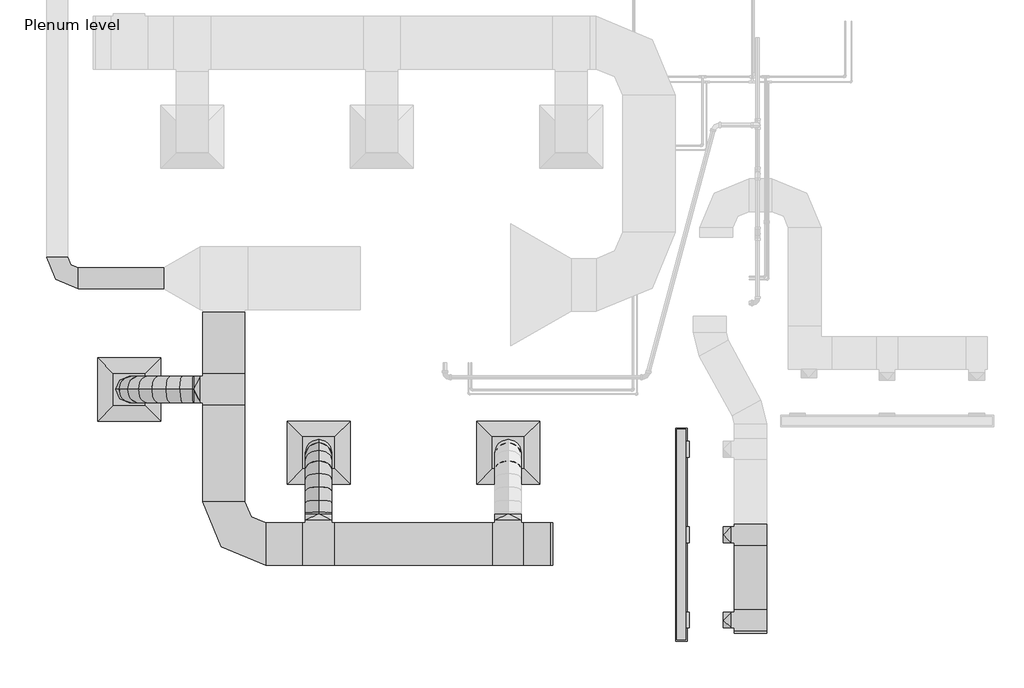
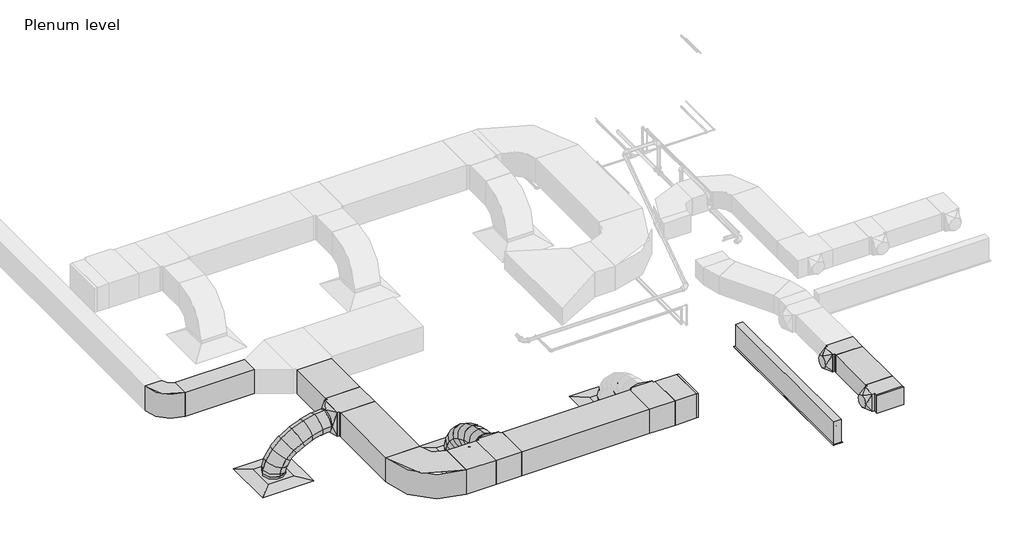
# One storey, part 1 of 5: 14 duct fittings, 9 duct segments, 4 air terminals.
"""IFC4 building model written with IfcOpenShell, lengths in millimetres."""

from ifc_helpers import new_model, si_unit, frame, origin, place, context, project, spatial, polyline, circle_curve, ellipse_curve, outline, extrude, transform, mapped, element, save
from ifc_brep_helpers import plane_surface, cylinder_surface, advanced_brep
from components import m_supply_diffuser_rectangular_face_round_neck_600x600_250_c542da2c, my_slot_dd8c6a98, m_rectangular_elbow_radius_1_w_3d36b4d6, m_rectangular_elbow_radius_1_w_505d9212, m_rectangular_endcap_standard_b158c805, m_rectangular_endcap_standard_0945e9d3, m_rectangular_tee_standard_5b520c83, m_rectangular_tee_standard_0bd60039, m_rectangular_to_round_transition_angle_45_degree_c764813a, m_rectangular_to_round_transition_angle_45_degree_93fd9755

model = new_model("IFC4")

# Units and contexts
model_context = context("Model", 3, world=origin())
ifc_project = project(units=[si_unit("LENGTHUNIT", "METRE", prefix="MILLI")], contexts=[model_context])

# Site, building, storey
site = spatial("IfcSite", under=ifc_project)
building = spatial("IfcBuilding", under=site)
storey = spatial("IfcBuildingStorey", under=building, Name="Plenum level", Elevation=2500.0)

# Air terminals
placement = place(None, origin())
m_supply_diffuser_rectangular_face_round_neck_600x600_250_shape = m_supply_diffuser_rectangular_face_round_neck_600x600_250_c542da2c(model_context)
element("IfcAirTerminal", 1, ObjectType="M_Supply Diffuser - Rectangular Face Round Neck : 600x600 - 250 Neck", at=placement, inside=storey, context=model_context, shape_type="MappedRepresentation", body=[
    mapped(m_supply_diffuser_rectangular_face_round_neck_600x600_250_shape, transform((-16262.9123896, -2855.4324328, 2500.0), x_axis=(1.0, 0.0, 0.0), y_axis=(0.0, 1.0, 0.0), z_axis=(0.0, 0.0, 1.0))),
])
element("IfcAirTerminal", 2, ObjectType="M_Supply Diffuser - Rectangular Face Round Neck : 600x600 - 250 Neck", at=placement, inside=storey, context=model_context, shape_type="MappedRepresentation", body=[
    mapped(m_supply_diffuser_rectangular_face_round_neck_600x600_250_shape, transform((-14462.9123896, -3455.4324328, 2500.0), x_axis=(1.0, 0.0, 0.0), y_axis=(0.0, 1.0, 0.0), z_axis=(0.0, 0.0, 1.0))),
])
element("IfcAirTerminal", 3, ObjectType="M_Supply Diffuser - Rectangular Face Round Neck : 600x600 - 250 Neck", at=placement, inside=storey, context=model_context, shape_type="MappedRepresentation", body=[
    mapped(m_supply_diffuser_rectangular_face_round_neck_600x600_250_shape, transform((-12662.9123896, -3455.4324328, 2500.0), x_axis=(1.0, 0.0, 0.0), y_axis=(0.0, 1.0, 0.0), z_axis=(0.0, 0.0, 1.0))),
])
my_slot_shape = my_slot_dd8c6a98(model_context)
element("IfcAirTerminal", 4, ObjectType="M_Supply Diffuser with Plenum - Linear Slot - Hosted MODIFIED : My slot", at=placement, inside=storey, context=model_context, shape_type="MappedRepresentation", body=[
    mapped(my_slot_shape, transform((-11017.3498896, -4235.4324328, 2500.0), x_axis=(0.0, -1.0, 0.0), y_axis=(-1.0, 0.0, 0.0), z_axis=(0.0, 0.0, -1.0))),
])

# Duct fittings
m_rectangular_elbow_radius_1_w_shape = m_rectangular_elbow_radius_1_w_3d36b4d6(model_context)
element("IfcDuctFitting", 5, ObjectType="M_Rectangular Elbow - Radius : 1 W", at=placement, inside=storey, context=model_context, shape_type="MappedRepresentation", body=[
    mapped(m_rectangular_elbow_radius_1_w_shape, transform((-15362.9185439, -4323.4069652, 2965.8898555), x_axis=(0.0, -0.9999999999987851, 1.5588434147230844e-06), y_axis=(1.0000000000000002, 0.0, 0.0), z_axis=(0.0, 1.5588434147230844e-06, 0.9999999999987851))),
])
m_rectangular_elbow_radius_1_w_2_shape = m_rectangular_elbow_radius_1_w_505d9212(model_context)
element("IfcDuctFitting", 6, ObjectType="M_Rectangular Elbow - Radius : 1 W", at=placement, inside=storey, context=model_context, shape_type="MappedRepresentation", body=[
    mapped(m_rectangular_elbow_radius_1_w_2_shape, transform((-16947.2723444, -1798.4074328, 2965.8591604), x_axis=(0.0, -0.9999999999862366, -5.246621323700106e-06), y_axis=(0.9999999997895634, -1.0763548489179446e-10, 2.0515199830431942e-05), z_axis=(-2.0515199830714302e-05, -5.246621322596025e-06, 0.9999999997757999))),
])
m_rectangular_endcap_standard_shape = m_rectangular_endcap_standard_b158c805(model_context)
element("IfcDuctFitting", 7, ObjectType="M_Rectangular Endcap : Standard", at=placement, inside=storey, context=model_context, shape_type="MappedRepresentation", body=[
    mapped(m_rectangular_endcap_standard_shape, transform((-10360.4971529, -5145.9332981, 2765.8943957), x_axis=(0.0, -0.9999999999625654, -8.652706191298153e-06), y_axis=(1.0, 0.0, 0.0), z_axis=(0.0, -8.652706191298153e-06, 0.9999999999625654))),
])
m_rectangular_endcap_standard_2_shape = m_rectangular_endcap_standard_0945e9d3(model_context)
element("IfcDuctFitting", 8, ObjectType="M_Rectangular Endcap : Standard", at=placement, inside=storey, context=model_context, shape_type="MappedRepresentation", body=[
    mapped(m_rectangular_endcap_standard_2_shape, transform((-12262.9123896, -4323.4069652, 2965.8898555), x_axis=(1.0, 0.0, 0.0), y_axis=(0.0, 1.0, 0.0), z_axis=(0.0, 0.0, 1.0))),
])
m_rectangular_tee_standard_shape = m_rectangular_tee_standard_5b520c83(model_context)
element("IfcDuctFitting", 9, ObjectType="M_Rectangular Tee : Standard", at=placement, inside=storey, context=model_context, shape_type="MappedRepresentation", body=[
    mapped(m_rectangular_tee_standard_shape, transform((-10360.4971529, -4235.4332981, 2765.902274), x_axis=(0.0, -0.9999999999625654, -8.652706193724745e-06), y_axis=(1.0, 0.0, 0.0), z_axis=(0.0, -8.652706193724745e-06, 0.9999999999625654))),
])
element("IfcDuctFitting", 10, ObjectType="M_Rectangular Tee : Standard", at=placement, inside=storey, context=model_context, shape_type="MappedRepresentation", body=[
    mapped(m_rectangular_tee_standard_shape, transform((-10360.4971529, -5045.9332981, 2765.895261), x_axis=(0.0, -0.9999999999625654, -8.652706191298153e-06), y_axis=(1.0, 0.0, 0.0), z_axis=(0.0, -8.652706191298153e-06, 0.9999999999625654))),
])
m_rectangular_tee_standard_2_shape = m_rectangular_tee_standard_0bd60039(model_context)
element("IfcDuctFitting", 11, ObjectType="M_Rectangular Tee : Standard", at=placement, inside=storey, context=model_context, shape_type="MappedRepresentation", body=[
    mapped(m_rectangular_tee_standard_2_shape, transform((-15362.9185439, -2855.4324328, 2965.8875672), x_axis=(0.0, -0.9999999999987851, 1.5588434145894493e-06), y_axis=(1.0000000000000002, 0.0, 0.0), z_axis=(0.0, 1.5588434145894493e-06, 0.9999999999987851))),
])
element("IfcDuctFitting", 12, ObjectType="M_Rectangular Tee : Standard", at=placement, inside=storey, context=model_context, shape_type="MappedRepresentation", body=[
    mapped(m_rectangular_tee_standard_2_shape, transform((-14462.9123896, -4323.4069652, 2965.8898555), x_axis=(-1.0, 0.0, 0.0), y_axis=(0.0, -1.0, 0.0), z_axis=(0.0, 0.0, 1.0))),
])
element("IfcDuctFitting", 13, ObjectType="M_Rectangular Tee : Standard", at=placement, inside=storey, context=model_context, shape_type="MappedRepresentation", body=[
    mapped(m_rectangular_tee_standard_2_shape, transform((-12662.9123896, -4323.4069652, 2965.8898555), x_axis=(-1.0, 0.0, 0.0), y_axis=(0.0, -1.0, 0.0), z_axis=(0.0, 0.0, 1.0))),
])
m_rectangular_to_round_transition_angle_45_degree_shape = m_rectangular_to_round_transition_angle_45_degree_c764813a(model_context)
element("IfcDuctFitting", 14, ObjectType="M_Rectangular to Round Transition - Angle : 45 Degree", at=placement, inside=storey, context=model_context, shape_type="MappedRepresentation", body=[
    mapped(m_rectangular_to_round_transition_angle_45_degree_shape, transform((-10541.4346529, -4235.4332981, 2765.902274), x_axis=(-1.0, 0.0, 0.0), y_axis=(0.0, -0.9999999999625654, -8.6527061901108e-06), z_axis=(0.0, -8.6527061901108e-06, 0.9999999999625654))),
])
element("IfcDuctFitting", 15, ObjectType="M_Rectangular to Round Transition - Angle : 45 Degree", at=placement, inside=storey, context=model_context, shape_type="MappedRepresentation", body=[
    mapped(m_rectangular_to_round_transition_angle_45_degree_shape, transform((-10541.4343944, -5045.9305787, 2765.9), x_axis=(-1.0, 0.0, 0.0), y_axis=(0.0, -0.9999999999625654, -8.6527061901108e-06), z_axis=(0.0, -8.6527061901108e-06, 0.9999999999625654))),
])
m_rectangular_to_round_transition_angle_45_degree_2_shape = m_rectangular_to_round_transition_angle_45_degree_93fd9755(model_context)
element("IfcDuctFitting", 16, ObjectType="M_Rectangular to Round Transition - Angle : 45 Degree", at=placement, inside=storey, context=model_context, shape_type="MappedRepresentation", body=[
    mapped(m_rectangular_to_round_transition_angle_45_degree_2_shape, transform((-15587.9185439, -2855.4324328, 2965.8875672), x_axis=(-1.0, 0.0, 0.0), y_axis=(0.0, -0.9999999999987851, 1.5588434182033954e-06), z_axis=(0.0, 1.5588434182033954e-06, 0.9999999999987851))),
])
element("IfcDuctFitting", 17, ObjectType="M_Rectangular to Round Transition - Angle : 45 Degree", at=placement, inside=storey, context=model_context, shape_type="MappedRepresentation", body=[
    mapped(m_rectangular_to_round_transition_angle_45_degree_2_shape, transform((-14462.9123896, -4098.4069652, 2965.8898555), x_axis=(0.0, 1.0, 0.0), y_axis=(-1.0, 0.0, 0.0), z_axis=(0.0, 0.0, 1.0))),
])
element("IfcDuctFitting", 18, ObjectType="M_Rectangular to Round Transition - Angle : 45 Degree", at=placement, inside=storey, context=model_context, shape_type="MappedRepresentation", body=[
    mapped(m_rectangular_to_round_transition_angle_45_degree_2_shape, transform((-12662.9123896, -4098.4069652, 2965.8898555), x_axis=(0.0, 1.0, 0.0), y_axis=(-1.0, 0.0, 0.0), z_axis=(0.0, 0.0, 1.0))),
])

# Duct segments
element("IfcDuctSegment", 19, ObjectType="Default", at=placement, inside=storey, context=model_context, shape_type="SweptSolid", body=[
    extrude(outline(polyline([(0.0, -311.875), (0.0, 0.0), (610.5000001, 0.0), (610.5000001, -311.875), (0.0, -311.875)])), frame((-10204.5596529, -4335.432371, 2658.7639087), z_axis=(0.0, -8.652706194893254e-06, 0.9999999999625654), x_axis=(0.0, -0.9999999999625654, -8.652706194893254e-06)), (0.0, 0.0, 1.0), 214.275),
])
element("IfcDuctSegment", 20, ObjectType="Default", at=placement, inside=storey, context=model_context, shape_type="SweptSolid", body=[
    extrude(outline(polyline([(0.0, -200.0), (0.0, 0.0), (812.9436392, 0.0), (812.9436392, -200.0), (0.0, -200.0)])), frame((-15934.3266879, -1898.4074328, 2815.8741969), z_axis=(-1.3449204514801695e-05, 0.0, 0.9999999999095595), x_axis=(-0.9999999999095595, -5.785981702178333e-11, -1.3449204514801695e-05)), (0.0, 0.0, 1.0), 300.0),
])
element("IfcDuctSegment", 21, ObjectType="Default", at=placement, inside=storey, context=model_context, shape_type="SweptSolid", body=[
    extrude(outline(polyline([(-15562.9185439, -3005.4324328), (-15162.9185439, -3005.4324328), (-15162.9185439, -3923.4069652), (-15562.9185439, -3923.4069652), (-15562.9185439, -3005.4324328)])), frame((0.0, 0.0, 2815.887801), z_axis=(0.0, 0.0, 1.0), x_axis=(1.0, 0.0, 0.0)), (0.0, 0.0, 1.0), 300.0),
])
element("IfcDuctSegment", 22, ObjectType="Default", at=placement, inside=storey, context=model_context, shape_type="SweptSolid", body=[
    extrude(outline(polyline([(-12512.9123896, -4523.4069652), (-12512.9123896, -4123.4069652), (-12262.9123896, -4123.4069652), (-12262.9123896, -4523.4069652), (-12512.9123896, -4523.4069652)])), frame((0.0, 0.0, 2815.8898555), z_axis=(0.0, 0.0, 1.0), x_axis=(1.0, 0.0, 0.0)), (0.0, 0.0, 1.0), 300.0),
])
element("IfcDuctSegment", 23, ObjectType="Default", at=placement, inside=storey, context=model_context, shape_type="SweptSolid", body=[
    extrude(outline(polyline([(-15562.9185439, -2123.4074328), (-15162.9185439, -2123.4074328), (-15162.9185439, -2705.4324328), (-15562.9185439, -2705.4324328), (-15562.9185439, -2123.4074328)])), frame((0.0, 0.0, 2815.8864261), z_axis=(0.0, 0.0, 1.0), x_axis=(1.0, 0.0, 0.0)), (0.0, 0.0, 1.0), 300.0),
])
element("IfcDuctSegment", 24, ObjectType="Default", at=placement, inside=storey, context=model_context, shape_type="SweptSolid", body=[
    extrude(outline(polyline([(-14962.9185439, -4523.4069652), (-14962.9185439, -4123.4069652), (-14612.9123896, -4123.4069652), (-14612.9123896, -4523.4069652), (-14962.9185439, -4523.4069652)])), frame((0.0, 0.0, 2815.8898555), z_axis=(0.0, 0.0, 1.0), x_axis=(1.0, 0.0, 0.0)), (0.0, 0.0, 1.0), 300.0),
])
element("IfcDuctSegment", 25, ObjectType="Default", at=placement, inside=storey, context=model_context, shape_type="SweptSolid", body=[
    extrude(outline(polyline([(-14312.9123896, -4523.4069652), (-14312.9123896, -4123.4069652), (-12812.9123896, -4123.4069652), (-12812.9123896, -4523.4069652), (-14312.9123896, -4523.4069652)])), frame((0.0, 0.0, 2815.8898555), z_axis=(0.0, 0.0, 1.0), x_axis=(1.0, 0.0, 0.0)), (0.0, 0.0, 1.0), 300.0),
])
element("IfcDuctSegment", 26, ObjectType="Flex - Round", at=placement, inside=storey, context=model_context, shape_type="AdvancedBrep", body=[
    advanced_brep(
    [(-16137.9123896, -2855.4324328, 2553.975), (-16262.9123896, -2980.4324328, 2553.975), (-16387.9123896, -2855.4324328, 2553.975), (-16262.9123896, -2730.4324328, 2553.975), (-16137.9123896, -2855.4324328, 2562.3691709), (-16262.9123896, -2980.4324328, 2579.6699319), (-16387.9123896, -2855.4324328, 2596.970693), (-16262.9123896, -2730.4324328, 2579.6699319), (-16126.6236869, -2855.4324328, 2602.3690497), (-16241.8082211, -2980.4324328, 2654.4494888), (-16356.9927552, -2855.4324328, 2706.5299279), (-16241.8082211, -2730.4324328, 2654.4494888), (-16088.4464942, -2855.4324328, 2661.3820954), (-16184.2027324, -2980.4324328, 2743.4941535), (-16279.9589707, -2855.4324328, 2825.6062117), (-16184.2027324, -2730.4324328, 2743.4941535), (-16024.6878659, -2855.4324328, 2718.1351568), (-16098.6564493, -2980.4324328, 2819.6409215), (-16172.6250327, -2855.4324328, 2921.1466861), (-16098.6564493, -2730.4324328, 2819.6409215), (-15938.6317519, -2855.4324328, 2768.8050331), (-15993.7298972, -2980.4324328, 2881.4217197), (-16048.8280426, -2855.4324328, 2994.0384062), (-15993.7298972, -2730.4324328, 2881.4217197), (-15839.9956757, -2855.4324328, 2807.9597004), (-15877.9836018, -2980.4324328, 2927.3684752), (-15915.9715279, -2855.4324328, 3046.7772501), (-15877.9836018, -2730.4324328, 2927.3684752), (-15739.032415, -2855.4324328, 2832.4675068), (-15759.9780885, -2980.4324328, 2956.0131154), (-15780.923762, -2855.4324328, 3079.558724), (-15759.9780885, -2730.4324328, 2956.0131154), (-15653.1666076, -2855.4324328, 2840.8875672), (-15659.2807378, -2980.4324328, 2965.8875672), (-15665.3948679, -2855.4324328, 3090.8875672), (-15659.2807378, -2730.4324328, 2965.8875672), (-15648.273883, -2855.4324328, 2840.8875672), (-15648.273883, -2980.4324328, 2965.8875672), (-15648.273883, -2855.4324328, 3090.8875672), (-15648.273883, -2730.4324328, 2965.8875672)],
    [
        (0, 1, circle_curve(frame((-16262.9123896, -2855.4324328, 2553.975), z_axis=(0.0, 0.0, -1.0), x_axis=(1.0, 0.0, 0.0)), 125.0)),
        (1, 2, circle_curve(frame((-16262.9123896, -2855.4324328, 2553.975), z_axis=(0.0, 0.0, -1.0), x_axis=(1.0, 0.0, 0.0)), 125.0)),
        (2, 3, circle_curve(frame((-16262.9123896, -2855.4324328, 2553.975), z_axis=(0.0, 0.0, -1.0), x_axis=(1.0, 0.0, 0.0)), 125.0)),
        (3, 0, circle_curve(frame((-16262.9123896, -2855.4324328, 2553.975), z_axis=(0.0, 0.0, -1.0), x_axis=(1.0, 0.0, 0.0)), 125.0)),
        (0, 4),
        (4, 5, ellipse_curve(frame((-16262.9123896, -2855.4324328, 2579.6699319), z_axis=(-0.13709916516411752, 0.0, -0.9905573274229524), x_axis=(0.9905573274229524, 0.0, -0.1370991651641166)), 126.1915858, 125.0)),
        (5, 1),
        (5, 6, ellipse_curve(frame((-16262.9123896, -2855.4324328, 2579.6699319), z_axis=(-0.13709916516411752, 0.0, -0.9905573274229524), x_axis=(0.9905573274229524, 0.0, -0.1370991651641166)), 126.1915858, 125.0)),
        (6, 2),
        (6, 7, ellipse_curve(frame((-16262.9123896, -2855.4324328, 2579.6699319), z_axis=(-0.13709916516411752, 0.0, -0.9905573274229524), x_axis=(0.9905573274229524, 0.0, -0.1370991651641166)), 126.1915858, 125.0)),
        (7, 3),
        (7, 4, ellipse_curve(frame((-16262.9123896, -2855.4324328, 2579.6699319), z_axis=(-0.13709916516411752, 0.0, -0.9905573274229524), x_axis=(0.9905573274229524, 0.0, -0.1370991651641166)), 126.1915858, 125.0)),
        (4, 8),
        (8, 9, ellipse_curve(frame((-16241.8082211, -2855.4324328, 2654.4494888), z_axis=(-0.41199154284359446, 0.0, -0.9111876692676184), x_axis=(0.9111876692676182, 0.0, -0.4119915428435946)), 126.4114277, 125.0)),
        (9, 5),
        (9, 10, ellipse_curve(frame((-16241.8082211, -2855.4324328, 2654.4494888), z_axis=(-0.41199154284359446, 0.0, -0.9111876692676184), x_axis=(0.9111876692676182, 0.0, -0.4119915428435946)), 126.4114277, 125.0)),
        (10, 6),
        (10, 11, ellipse_curve(frame((-16241.8082211, -2855.4324328, 2654.4494888), z_axis=(-0.41199154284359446, 0.0, -0.9111876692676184), x_axis=(0.9111876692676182, 0.0, -0.4119915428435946)), 126.4114277, 125.0)),
        (11, 7),
        (11, 8, ellipse_curve(frame((-16241.8082211, -2855.4324328, 2654.4494888), z_axis=(-0.41199154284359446, 0.0, -0.9111876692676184), x_axis=(0.9111876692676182, 0.0, -0.4119915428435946)), 126.4114277, 125.0)),
        (8, 12),
        (12, 13, ellipse_curve(frame((-16184.2027324, -2855.4324328, 2743.4941535), z_axis=(-0.6509526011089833, 0.0, -0.759118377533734), x_axis=(0.7591183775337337, 0.0, -0.650952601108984)), 126.1413781, 125.0)),
        (13, 9),
        (13, 14, ellipse_curve(frame((-16184.2027324, -2855.4324328, 2743.4941535), z_axis=(-0.6509526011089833, 0.0, -0.759118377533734), x_axis=(0.7591183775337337, 0.0, -0.650952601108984)), 126.1413781, 125.0)),
        (14, 10),
        (14, 15, ellipse_curve(frame((-16184.2027324, -2855.4324328, 2743.4941535), z_axis=(-0.6509526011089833, 0.0, -0.759118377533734), x_axis=(0.7591183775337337, 0.0, -0.650952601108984)), 126.1413781, 125.0)),
        (15, 11),
        (15, 12, ellipse_curve(frame((-16184.2027324, -2855.4324328, 2743.4941535), z_axis=(-0.6509526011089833, 0.0, -0.759118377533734), x_axis=(0.7591183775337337, 0.0, -0.650952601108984)), 126.1413781, 125.0)),
        (12, 16),
        (16, 17, ellipse_curve(frame((-16098.6564493, -2855.4324328, 2819.6409215), z_axis=(-0.8081819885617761, 0.0, -0.588932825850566), x_axis=(0.5889328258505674, 0.0, -0.8081819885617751)), 125.5976575, 125.0)),
        (17, 13),
        (17, 18, ellipse_curve(frame((-16098.6564493, -2855.4324328, 2819.6409215), z_axis=(-0.8081819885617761, 0.0, -0.588932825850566), x_axis=(0.5889328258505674, 0.0, -0.8081819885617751)), 125.5976575, 125.0)),
        (18, 14),
        (18, 19, ellipse_curve(frame((-16098.6564493, -2855.4324328, 2819.6409215), z_axis=(-0.8081819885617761, 0.0, -0.588932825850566), x_axis=(0.5889328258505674, 0.0, -0.8081819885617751)), 125.5976575, 125.0)),
        (19, 15),
        (19, 16, ellipse_curve(frame((-16098.6564493, -2855.4324328, 2819.6409215), z_axis=(-0.8081819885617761, 0.0, -0.588932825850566), x_axis=(0.5889328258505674, 0.0, -0.8081819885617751)), 125.5976575, 125.0)),
        (16, 20),
        (20, 21, ellipse_curve(frame((-15993.7298972, -2855.4324328, 2881.4217197), z_axis=(-0.8982549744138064, 0.0, -0.4394746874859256), x_axis=(0.4394746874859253, 0.0, -0.8982549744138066)), 125.3727391, 125.0)),
        (21, 17),
        (21, 22, ellipse_curve(frame((-15993.7298972, -2855.4324328, 2881.4217197), z_axis=(-0.8982549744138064, 0.0, -0.4394746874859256), x_axis=(0.4394746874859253, 0.0, -0.8982549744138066)), 125.3727391, 125.0)),
        (22, 18),
        (22, 23, ellipse_curve(frame((-15993.7298972, -2855.4324328, 2881.4217197), z_axis=(-0.8982549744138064, 0.0, -0.4394746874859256), x_axis=(0.4394746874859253, 0.0, -0.8982549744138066)), 125.3727391, 125.0)),
        (23, 19),
        (23, 20, ellipse_curve(frame((-15993.7298972, -2855.4324328, 2881.4217197), z_axis=(-0.8982549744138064, 0.0, -0.4394746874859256), x_axis=(0.4394746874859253, 0.0, -0.8982549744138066)), 125.3727391, 125.0)),
        (20, 24),
        (24, 25, ellipse_curve(frame((-15877.9836018, -2855.4324328, 2927.3684752), z_axis=(-0.9529390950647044, 0.0, -0.30316180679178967), x_axis=(0.3031618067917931, 0.0, -0.952939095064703)), 125.3057781, 125.0)),
        (25, 21),
        (25, 26, ellipse_curve(frame((-15877.9836018, -2855.4324328, 2927.3684752), z_axis=(-0.9529390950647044, 0.0, -0.30316180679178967), x_axis=(0.3031618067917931, 0.0, -0.952939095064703)), 125.3057781, 125.0)),
        (26, 22),
        (26, 27, ellipse_curve(frame((-15877.9836018, -2855.4324328, 2927.3684752), z_axis=(-0.9529390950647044, 0.0, -0.30316180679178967), x_axis=(0.3031618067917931, 0.0, -0.952939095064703)), 125.3057781, 125.0)),
        (27, 23),
        (27, 24, ellipse_curve(frame((-15877.9836018, -2855.4324328, 2927.3684752), z_axis=(-0.9529390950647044, 0.0, -0.30316180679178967), x_axis=(0.3031618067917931, 0.0, -0.952939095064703)), 125.3057781, 125.0)),
        (24, 28),
        (28, 29, ellipse_curve(frame((-15759.9780885, -2855.4324328, 2956.0131154), z_axis=(-0.985931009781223, 0.0, -0.16715275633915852), x_axis=(0.16715275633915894, 0.0, -0.9859310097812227)), 125.3085737, 125.0)),
        (29, 25),
        (29, 30, ellipse_curve(frame((-15759.9780885, -2855.4324328, 2956.0131154), z_axis=(-0.985931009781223, 0.0, -0.16715275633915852), x_axis=(0.16715275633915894, 0.0, -0.9859310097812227)), 125.3085737, 125.0)),
        (30, 26),
        (30, 31, ellipse_curve(frame((-15759.9780885, -2855.4324328, 2956.0131154), z_axis=(-0.985931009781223, 0.0, -0.16715275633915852), x_axis=(0.16715275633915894, 0.0, -0.9859310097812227)), 125.3085737, 125.0)),
        (31, 27),
        (31, 28, ellipse_curve(frame((-15759.9780885, -2855.4324328, 2956.0131154), z_axis=(-0.985931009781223, 0.0, -0.16715275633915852), x_axis=(0.16715275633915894, 0.0, -0.9859310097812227)), 125.3085737, 125.0)),
        (28, 32),
        (32, 33, ellipse_curve(frame((-15659.2807378, -2855.4324328, 2965.8875672), z_axis=(-0.9988058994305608, 0.0, -0.04885463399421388), x_axis=(0.04885463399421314, 0.0, -0.9988058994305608)), 125.149441, 125.0)),
        (33, 29),
        (33, 34, ellipse_curve(frame((-15659.2807378, -2855.4324328, 2965.8875672), z_axis=(-0.9988058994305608, 0.0, -0.04885463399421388), x_axis=(0.04885463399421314, 0.0, -0.9988058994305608)), 125.149441, 125.0)),
        (34, 30),
        (34, 35, ellipse_curve(frame((-15659.2807378, -2855.4324328, 2965.8875672), z_axis=(-0.9988058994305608, 0.0, -0.04885463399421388), x_axis=(0.04885463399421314, 0.0, -0.9988058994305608)), 125.149441, 125.0)),
        (35, 31),
        (35, 32, ellipse_curve(frame((-15659.2807378, -2855.4324328, 2965.8875672), z_axis=(-0.9988058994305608, 0.0, -0.04885463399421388), x_axis=(0.04885463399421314, 0.0, -0.9988058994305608)), 125.149441, 125.0)),
        (32, 36),
        (36, 37, circle_curve(frame((-15648.273883, -2855.4324328, 2965.8875672), z_axis=(-1.0, 0.0, 0.0), x_axis=(0.0, 0.0, -1.0)), 125.0)),
        (37, 33),
        (37, 38, circle_curve(frame((-15648.273883, -2855.4324328, 2965.8875672), z_axis=(-1.0, 0.0, 0.0), x_axis=(0.0, 0.0, -1.0)), 125.0)),
        (38, 34),
        (38, 39, circle_curve(frame((-15648.273883, -2855.4324328, 2965.8875672), z_axis=(-1.0, 0.0, 0.0), x_axis=(0.0, 0.0, -1.0)), 125.0)),
        (39, 35),
        (39, 36, circle_curve(frame((-15648.273883, -2855.4324328, 2965.8875672), z_axis=(-1.0, 0.0, 0.0), x_axis=(0.0, 0.0, -1.0)), 125.0)),
    ],
    [
        plane_surface(frame((-16262.9123896, -2980.4324328, 2553.975), z_axis=(0.0, 0.0, -1.0), x_axis=(1.0, 0.0, 0.0))),
        cylinder_surface(frame((-16262.9123896, -2855.4324328, 2553.975), z_axis=(0.0, 0.0, -1.0), x_axis=(1.0, 0.0, 0.0)), 125.0),
        cylinder_surface(frame((-16262.9123896, -2855.4324328, 2579.6699319), z_axis=(-0.2716091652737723, 0.0, -0.9624076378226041), x_axis=(0.9624076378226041, 0.0, -0.2716091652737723)), 125.0),
        cylinder_surface(frame((-16241.8082211, -2855.4324328, 2654.4494888), z_axis=(-0.5431738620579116, 0.0, -0.8396202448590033), x_axis=(0.8396202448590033, 0.0, -0.5431738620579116)), 125.0),
        cylinder_surface(frame((-16184.2027324, -2855.4324328, 2743.4941535), z_axis=(-0.7469511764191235, 0.0, -0.6648788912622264), x_axis=(0.6648788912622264, 0.0, -0.7469511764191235)), 125.0),
        cylinder_surface(frame((-16098.6564493, -2855.4324328, 2819.6409215), z_axis=(-0.8617213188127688, 0.0, -0.5073818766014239), x_axis=(0.5073818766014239, 0.0, -0.8617213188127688)), 125.0),
        cylinder_surface(frame((-15993.7298972, -2855.4324328, 2881.4217197), z_axis=(-0.9294475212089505, 0.0, -0.3689543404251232), x_axis=(0.3689543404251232, 0.0, -0.9294475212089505)), 125.0),
        cylinder_surface(frame((-15877.9836018, -2855.4324328, 2927.3684752), z_axis=(-0.9717798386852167, 0.0, -0.2358896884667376), x_axis=(0.2358896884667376, 0.0, -0.9717798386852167)), 125.0),
        cylinder_surface(frame((-15759.9780885, -2855.4324328, 2956.0131154), z_axis=(-0.9952264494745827, 0.0, -0.09759259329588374), x_axis=(0.09759259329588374, 0.0, -0.9952264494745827)), 125.0),
        cylinder_surface(frame((-15659.2807378, -2855.4324328, 2965.8875672), z_axis=(-1.0, 0.0, 0.0), x_axis=(0.0, 0.0, -1.0)), 125.0),
        plane_surface(frame((-15648.273883, -2855.4324328, 2840.8875672), z_axis=(1.0, 0.0, 0.0), x_axis=(0.0, 1.0, 0.0))),
    ],
    [
        (0, [[1, 2, 3, 4]]),
        (1, [[-1, 5, 6, 7]]),
        (1, [[-2, -7, 8, 9]]),
        (1, [[-3, -9, 10, 11]]),
        (1, [[-4, -11, 12, -5]]),
        (2, [[-6, 13, 14, 15]]),
        (2, [[-8, -15, 16, 17]]),
        (2, [[-10, -17, 18, 19]]),
        (2, [[-12, -19, 20, -13]]),
        (3, [[-14, 21, 22, 23]]),
        (3, [[-16, -23, 24, 25]]),
        (3, [[-18, -25, 26, 27]]),
        (3, [[-20, -27, 28, -21]]),
        (4, [[-22, 29, 30, 31]]),
        (4, [[-24, -31, 32, 33]]),
        (4, [[-26, -33, 34, 35]]),
        (4, [[-28, -35, 36, -29]]),
        (5, [[-30, 37, 38, 39]]),
        (5, [[-32, -39, 40, 41]]),
        (5, [[-34, -41, 42, 43]]),
        (5, [[-36, -43, 44, -37]]),
        (6, [[-38, 45, 46, 47]]),
        (6, [[-40, -47, 48, 49]]),
        (6, [[-42, -49, 50, 51]]),
        (6, [[-44, -51, 52, -45]]),
        (7, [[-46, 53, 54, 55]]),
        (7, [[-48, -55, 56, 57]]),
        (7, [[-50, -57, 58, 59]]),
        (7, [[-52, -59, 60, -53]]),
        (8, [[-54, 61, 62, 63]]),
        (8, [[-56, -63, 64, 65]]),
        (8, [[-58, -65, 66, 67]]),
        (8, [[-60, -67, 68, -61]]),
        (9, [[-62, 69, 70, 71]]),
        (9, [[-64, -71, 72, 73]]),
        (9, [[-66, -73, 74, 75]]),
        (9, [[-68, -75, 76, -69]]),
        (10, [[-76, -74, -72, -70]]),
    ],
),
])
element("IfcDuctSegment", 27, ObjectType="Flex - Round", at=placement, inside=storey, context=model_context, shape_type="AdvancedBrep", body=[
    advanced_brep(
    [(-14337.9123896, -3455.4324328, 2553.975), (-14462.9123896, -3580.4324328, 2553.975), (-14587.9123896, -3455.4324328, 2553.975), (-14462.9123896, -3330.4324328, 2553.975), (-14337.9123896, -3455.4324328, 2578.7915529), (-14462.9123896, -3580.4324328, 2562.1226451), (-14587.9123896, -3455.4324328, 2578.7915529), (-14462.9123896, -3330.4324328, 2595.4604606), (-14337.9123896, -3475.2242995, 2651.6814393), (-14462.9123896, -3591.1351624, 2601.5388739), (-14587.9123896, -3475.2242995, 2651.6814393), (-14462.9123896, -3359.3134366, 2701.8240046), (-14337.9123896, -3529.3321135, 2739.649918), (-14462.9123896, -3627.2129002, 2660.1940566), (-14587.9123896, -3529.3321135, 2739.649918), (-14462.9123896, -3431.4513267, 2819.1057794), (-14337.9123896, -3609.8541957, 2815.9509204), (-14462.9123896, -3687.001148, 2716.848121), (-14587.9123896, -3609.8541957, 2815.9509204), (-14462.9123896, -3532.7072434, 2915.0537198), (-14337.9123896, -3708.8888672, 2878.6549311), (-14462.9123896, -3767.3901018, 2767.7465563), (-14587.9123896, -3708.8888672, 2878.6549311), (-14462.9123896, -3650.3876325, 2989.5633058), (-14337.9123896, -3818.5344488, 2925.8324342), (-14462.9123896, -3859.4431438, 2807.3544695), (-14587.9123896, -3818.5344488, 2925.8324342), (-14462.9123896, -3777.6257537, 3044.3103989), (-14337.9123896, -3930.8892614, 2955.5539143), (-14462.9123896, -3953.7505347, 2832.3018231), (-14587.9123896, -3930.8892614, 2955.5539143), (-14462.9123896, -3908.0279882, 3078.8060054), (-14337.9123896, -4026.0509142, 2965.8898555), (-14462.9123896, -4032.8194206, 2840.8898555), (-14587.9123896, -4026.0509142, 2965.8898555), (-14462.9123896, -4019.2824077, 3090.8898555), (-14337.9123896, -4038.0516261, 2965.8898555), (-14462.9123896, -4038.0516261, 2840.8898555), (-14587.9123896, -4038.0516261, 2965.8898555), (-14462.9123896, -4038.0516261, 3090.8898555)],
    [
        (0, 1, circle_curve(frame((-14462.9123896, -3455.4324328, 2553.975), z_axis=(0.0, 0.0, -1.0), x_axis=(1.0, 0.0, 0.0)), 125.0)),
        (1, 2, circle_curve(frame((-14462.9123896, -3455.4324328, 2553.975), z_axis=(0.0, 0.0, -1.0), x_axis=(1.0, 0.0, 0.0)), 125.0)),
        (2, 3, circle_curve(frame((-14462.9123896, -3455.4324328, 2553.975), z_axis=(0.0, 0.0, -1.0), x_axis=(1.0, 0.0, 0.0)), 125.0)),
        (3, 0, circle_curve(frame((-14462.9123896, -3455.4324328, 2553.975), z_axis=(0.0, 0.0, -1.0), x_axis=(1.0, 0.0, 0.0)), 125.0)),
        (0, 4),
        (4, 5, ellipse_curve(frame((-14462.9123896, -3455.4324328, 2578.7915529), z_axis=(0.0, 0.1321811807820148, -0.9912255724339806), x_axis=(0.0, -0.9912255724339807, -0.13218118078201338)), 126.1065125, 125.0)),
        (5, 1),
        (5, 6, ellipse_curve(frame((-14462.9123896, -3455.4324328, 2578.7915529), z_axis=(0.0, 0.1321811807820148, -0.9912255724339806), x_axis=(0.0, -0.9912255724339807, -0.13218118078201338)), 126.1065125, 125.0)),
        (6, 2),
        (6, 7, ellipse_curve(frame((-14462.9123896, -3455.4324328, 2578.7915529), z_axis=(0.0, 0.1321811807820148, -0.9912255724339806), x_axis=(0.0, -0.9912255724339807, -0.13218118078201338)), 126.1065125, 125.0)),
        (7, 3),
        (7, 4, ellipse_curve(frame((-14462.9123896, -3455.4324328, 2578.7915529), z_axis=(0.0, 0.1321811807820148, -0.9912255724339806), x_axis=(0.0, -0.9912255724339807, -0.13218118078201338)), 126.1065125, 125.0)),
        (4, 8),
        (8, 9, ellipse_curve(frame((-14462.9123896, -3475.2242995, 2651.6814393), z_axis=(0.0, 0.3970375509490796, -0.9178023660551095), x_axis=(0.0, -0.9178023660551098, -0.3970375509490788)), 126.2917456, 125.0)),
        (9, 5),
        (9, 10, ellipse_curve(frame((-14462.9123896, -3475.2242995, 2651.6814393), z_axis=(0.0, 0.3970375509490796, -0.9178023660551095), x_axis=(0.0, -0.9178023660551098, -0.3970375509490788)), 126.2917456, 125.0)),
        (10, 6),
        (10, 11, ellipse_curve(frame((-14462.9123896, -3475.2242995, 2651.6814393), z_axis=(0.0, 0.3970375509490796, -0.9178023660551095), x_axis=(0.0, -0.9178023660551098, -0.3970375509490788)), 126.2917456, 125.0)),
        (11, 7),
        (11, 8, ellipse_curve(frame((-14462.9123896, -3475.2242995, 2651.6814393), z_axis=(0.0, 0.3970375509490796, -0.9178023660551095), x_axis=(0.0, -0.9178023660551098, -0.3970375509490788)), 126.2917456, 125.0)),
        (8, 12),
        (12, 13, ellipse_curve(frame((-14462.9123896, -3529.3321135, 2739.649918), z_axis=(0.0, 0.6302472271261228, -0.7763945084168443), x_axis=(0.0, -0.7763945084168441, -0.630247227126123)), 126.0709417, 125.0)),
        (13, 9),
        (13, 14, ellipse_curve(frame((-14462.9123896, -3529.3321135, 2739.649918), z_axis=(0.0, 0.6302472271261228, -0.7763945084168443), x_axis=(0.0, -0.7763945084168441, -0.630247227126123)), 126.0709417, 125.0)),
        (14, 10),
        (14, 15, ellipse_curve(frame((-14462.9123896, -3529.3321135, 2739.649918), z_axis=(0.0, 0.6302472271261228, -0.7763945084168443), x_axis=(0.0, -0.7763945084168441, -0.630247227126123)), 126.0709417, 125.0)),
        (15, 11),
        (15, 12, ellipse_curve(frame((-14462.9123896, -3529.3321135, 2739.649918), z_axis=(0.0, 0.6302472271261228, -0.7763945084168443), x_axis=(0.0, -0.7763945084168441, -0.630247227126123)), 126.0709417, 125.0)),
        (12, 16),
        (16, 17, ellipse_curve(frame((-14462.9123896, -3609.8541957, 2815.9509204), z_axis=(0.0, 0.7890936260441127, -0.6142729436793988), x_axis=(0.0, -0.6142729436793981, -0.7890936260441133)), 125.5906728, 125.0)),
        (17, 13),
        (17, 18, ellipse_curve(frame((-14462.9123896, -3609.8541957, 2815.9509204), z_axis=(0.0, 0.7890936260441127, -0.6142729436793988), x_axis=(0.0, -0.6142729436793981, -0.7890936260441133)), 125.5906728, 125.0)),
        (18, 14),
        (18, 19, ellipse_curve(frame((-14462.9123896, -3609.8541957, 2815.9509204), z_axis=(0.0, 0.7890936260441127, -0.6142729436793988), x_axis=(0.0, -0.6142729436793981, -0.7890936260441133)), 125.5906728, 125.0)),
        (19, 15),
        (19, 16, ellipse_curve(frame((-14462.9123896, -3609.8541957, 2815.9509204), z_axis=(0.0, 0.7890936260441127, -0.6142729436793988), x_axis=(0.0, -0.6142729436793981, -0.7890936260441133)), 125.5906728, 125.0)),
        (16, 20),
        (20, 21, ellipse_curve(frame((-14462.9123896, -3708.8888672, 2878.6549311), z_axis=(0.0, 0.8844958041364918, -0.46654814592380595), x_axis=(0.0, -0.4665481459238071, -0.8844958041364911)), 125.3916347, 125.0)),
        (21, 17),
        (21, 22, ellipse_curve(frame((-14462.9123896, -3708.8888672, 2878.6549311), z_axis=(0.0, 0.8844958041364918, -0.46654814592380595), x_axis=(0.0, -0.4665481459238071, -0.8844958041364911)), 125.3916347, 125.0)),
        (22, 18),
        (22, 23, ellipse_curve(frame((-14462.9123896, -3708.8888672, 2878.6549311), z_axis=(0.0, 0.8844958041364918, -0.46654814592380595), x_axis=(0.0, -0.4665481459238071, -0.8844958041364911)), 125.3916347, 125.0)),
        (23, 19),
        (23, 20, ellipse_curve(frame((-14462.9123896, -3708.8888672, 2878.6549311), z_axis=(0.0, 0.8844958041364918, -0.46654814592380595), x_axis=(0.0, -0.4665481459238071, -0.8844958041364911)), 125.3916347, 125.0)),
        (20, 24),
        (24, 25, ellipse_curve(frame((-14462.9123896, -3818.5344488, 2925.8324342), z_axis=(0.0, 0.9452395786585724, -0.32637729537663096), x_axis=(0.0, -0.32637729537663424, -0.9452395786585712)), 125.3417307, 125.0)),
        (25, 21),
        (25, 26, ellipse_curve(frame((-14462.9123896, -3818.5344488, 2925.8324342), z_axis=(0.0, 0.9452395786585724, -0.32637729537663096), x_axis=(0.0, -0.32637729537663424, -0.9452395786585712)), 125.3417307, 125.0)),
        (26, 22),
        (26, 27, ellipse_curve(frame((-14462.9123896, -3818.5344488, 2925.8324342), z_axis=(0.0, 0.9452395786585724, -0.32637729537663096), x_axis=(0.0, -0.32637729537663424, -0.9452395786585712)), 125.3417307, 125.0)),
        (27, 23),
        (27, 24, ellipse_curve(frame((-14462.9123896, -3818.5344488, 2925.8324342), z_axis=(0.0, 0.9452395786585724, -0.32637729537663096), x_axis=(0.0, -0.32637729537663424, -0.9452395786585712)), 125.3417307, 125.0)),
        (24, 28),
        (28, 29, ellipse_curve(frame((-14462.9123896, -3930.8892614, 2955.5539143), z_axis=(0.0, 0.9832293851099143, -0.1823731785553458), x_axis=(0.0, -0.18237317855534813, -0.9832293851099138)), 125.3543609, 125.0)),
        (29, 25),
        (29, 30, ellipse_curve(frame((-14462.9123896, -3930.8892614, 2955.5539143), z_axis=(0.0, 0.9832293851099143, -0.1823731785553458), x_axis=(0.0, -0.18237317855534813, -0.9832293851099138)), 125.3543609, 125.0)),
        (30, 26),
        (30, 31, ellipse_curve(frame((-14462.9123896, -3930.8892614, 2955.5539143), z_axis=(0.0, 0.9832293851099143, -0.1823731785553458), x_axis=(0.0, -0.18237317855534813, -0.9832293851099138)), 125.3543609, 125.0)),
        (31, 27),
        (31, 28, ellipse_curve(frame((-14462.9123896, -3930.8892614, 2955.5539143), z_axis=(0.0, 0.9832293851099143, -0.1823731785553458), x_axis=(0.0, -0.18237317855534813, -0.9832293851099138)), 125.3543609, 125.0)),
        (28, 32),
        (32, 33, ellipse_curve(frame((-14462.9123896, -4026.0509142, 2965.8898555), z_axis=(0.0, 0.9985372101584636, -0.05406884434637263), x_axis=(0.0, -0.05406884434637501, -0.9985372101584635)), 125.1831166, 125.0)),
        (33, 29),
        (33, 34, ellipse_curve(frame((-14462.9123896, -4026.0509142, 2965.8898555), z_axis=(0.0, 0.9985372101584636, -0.05406884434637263), x_axis=(0.0, -0.05406884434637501, -0.9985372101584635)), 125.1831166, 125.0)),
        (34, 30),
        (34, 35, ellipse_curve(frame((-14462.9123896, -4026.0509142, 2965.8898555), z_axis=(0.0, 0.9985372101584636, -0.05406884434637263), x_axis=(0.0, -0.05406884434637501, -0.9985372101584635)), 125.1831166, 125.0)),
        (35, 31),
        (35, 32, ellipse_curve(frame((-14462.9123896, -4026.0509142, 2965.8898555), z_axis=(0.0, 0.9985372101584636, -0.05406884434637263), x_axis=(0.0, -0.05406884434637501, -0.9985372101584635)), 125.1831166, 125.0)),
        (32, 36),
        (36, 37, circle_curve(frame((-14462.9123896, -4038.0516261, 2965.8898555), z_axis=(0.0, 1.0, 0.0), x_axis=(1.0, 0.0, 0.0)), 125.0)),
        (37, 33),
        (37, 38, circle_curve(frame((-14462.9123896, -4038.0516261, 2965.8898555), z_axis=(0.0, 1.0, 0.0), x_axis=(1.0, 0.0, 0.0)), 125.0)),
        (38, 34),
        (38, 39, circle_curve(frame((-14462.9123896, -4038.0516261, 2965.8898555), z_axis=(0.0, 1.0, 0.0), x_axis=(1.0, 0.0, 0.0)), 125.0)),
        (39, 35),
        (39, 36, circle_curve(frame((-14462.9123896, -4038.0516261, 2965.8898555), z_axis=(0.0, 1.0, 0.0), x_axis=(1.0, 0.0, 0.0)), 125.0)),
    ],
    [
        plane_surface(frame((-14462.9123896, -3580.4324328, 2553.975), z_axis=(0.0, 0.0, -1.0), x_axis=(1.0, 0.0, 0.0))),
        cylinder_surface(frame((-14462.9123896, -3455.4324328, 2553.975), z_axis=(0.0, 0.0, -1.0), x_axis=(1.0, 0.0, 0.0)), 125.0),
        cylinder_surface(frame((-14462.9123896, -3455.4324328, 2578.7915529), z_axis=(0.0, 0.2620427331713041, -0.9650562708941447), x_axis=(1.0, 0.0, 0.0)), 125.0),
        cylinder_surface(frame((-14462.9123896, -3475.2242995, 2651.6814393), z_axis=(0.0, 0.5239103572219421, -0.8517734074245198), x_axis=(1.0, 0.0, 0.0)), 125.0),
        cylinder_surface(frame((-14462.9123896, -3529.3321135, 2739.649918), z_axis=(0.0, 0.7258765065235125, -0.6878250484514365), x_axis=(1.0, 0.0, 0.0)), 125.0),
        cylinder_surface(frame((-14462.9123896, -3609.8541957, 2815.9509204), z_axis=(0.0, 0.8448882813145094, -0.5349427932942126), x_axis=(1.0, 0.0, 0.0)), 125.0),
        cylinder_surface(frame((-14462.9123896, -3708.8888672, 2878.6549311), z_axis=(0.0, 0.9185782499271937, -0.39523916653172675), x_axis=(1.0, 0.0, 0.0)), 125.0),
        cylinder_surface(frame((-14462.9123896, -3818.5344488, 2925.8324342), z_axis=(0.0, 0.96674672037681, -0.2557357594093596), x_axis=(1.0, 0.0, 0.0)), 125.0),
        cylinder_surface(frame((-14462.9123896, -3930.8892614, 2955.5539143), z_axis=(0.0, 0.9941531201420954, -0.10797950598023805), x_axis=(1.0, 0.0, 0.0)), 125.0),
        cylinder_surface(frame((-14462.9123896, -4026.0509142, 2965.8898555), z_axis=(0.0, 1.0, 0.0), x_axis=(1.0, 0.0, 0.0)), 125.0),
        plane_surface(frame((-14587.9123896, -4038.0516261, 2965.8898555), z_axis=(0.0, -1.0, 0.0), x_axis=(0.0, 0.0, -1.0))),
    ],
    [
        (0, [[1, 2, 3, 4]]),
        (1, [[-1, 5, 6, 7]]),
        (1, [[-2, -7, 8, 9]]),
        (1, [[-3, -9, 10, 11]]),
        (1, [[-4, -11, 12, -5]]),
        (2, [[-6, 13, 14, 15]]),
        (2, [[-8, -15, 16, 17]]),
        (2, [[-10, -17, 18, 19]]),
        (2, [[-12, -19, 20, -13]]),
        (3, [[-14, 21, 22, 23]]),
        (3, [[-16, -23, 24, 25]]),
        (3, [[-18, -25, 26, 27]]),
        (3, [[-20, -27, 28, -21]]),
        (4, [[-22, 29, 30, 31]]),
        (4, [[-24, -31, 32, 33]]),
        (4, [[-26, -33, 34, 35]]),
        (4, [[-28, -35, 36, -29]]),
        (5, [[-30, 37, 38, 39]]),
        (5, [[-32, -39, 40, 41]]),
        (5, [[-34, -41, 42, 43]]),
        (5, [[-36, -43, 44, -37]]),
        (6, [[-38, 45, 46, 47]]),
        (6, [[-40, -47, 48, 49]]),
        (6, [[-42, -49, 50, 51]]),
        (6, [[-44, -51, 52, -45]]),
        (7, [[-46, 53, 54, 55]]),
        (7, [[-48, -55, 56, 57]]),
        (7, [[-50, -57, 58, 59]]),
        (7, [[-52, -59, 60, -53]]),
        (8, [[-54, 61, 62, 63]]),
        (8, [[-56, -63, 64, 65]]),
        (8, [[-58, -65, 66, 67]]),
        (8, [[-60, -67, 68, -61]]),
        (9, [[-62, 69, 70, 71]]),
        (9, [[-64, -71, 72, 73]]),
        (9, [[-66, -73, 74, 75]]),
        (9, [[-68, -75, 76, -69]]),
        (10, [[-76, -74, -72, -70]]),
    ],
),
])

save(model, "model.ifc")
